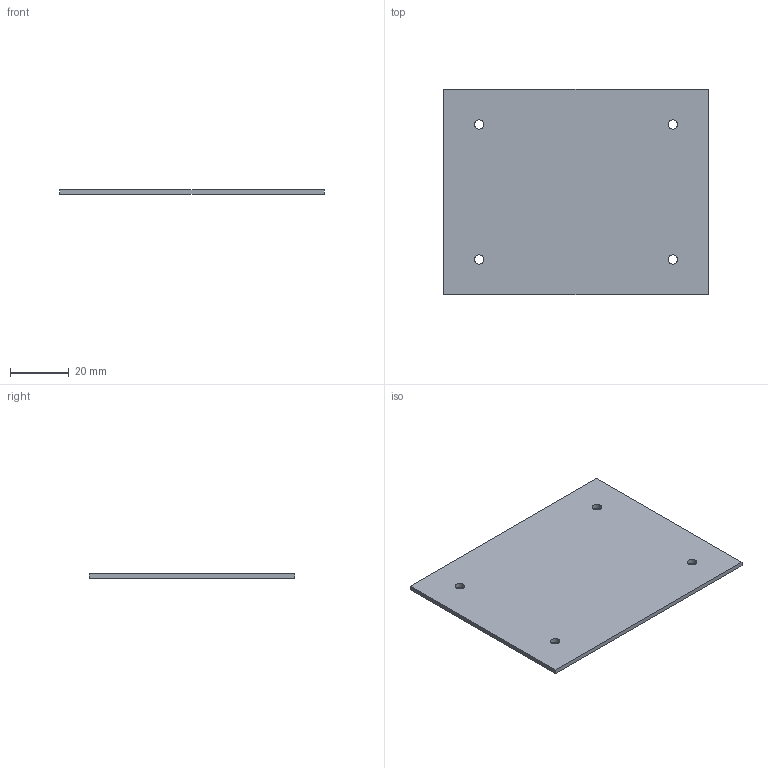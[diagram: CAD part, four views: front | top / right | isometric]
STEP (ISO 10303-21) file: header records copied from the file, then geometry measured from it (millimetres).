
FILE_DESCRIPTION(('KiCad electronic assembly'),'2;1');
FILE_NAME('board.step','2026-08-09T15:51:00',('Pcbnew'),('Kicad'), 'Open CASCADE STEP processor 7.9','KiCad to STEP converter','Unknown' );
FILE_SCHEMA(('AUTOMOTIVE_DESIGN { 1 0 10303 214 1 1 1 1 }'));
Length unit declared in the file: millimetre
Products named in the file (2): board 1; edge_io_rings_PCB
Assembly tree (1 placements, depth 2):
  board 1
    edge_io_rings_PCB
Bounding box: 90 x 70 x 1.51 mm (x, y, z)
Volume: 9464.4 mm3; surface area: 13079.6 mm2
Topology: 1 solids, 1 shells, 10 faces, 24 edges, 16 vertices
Faces by surface type: plane 6, cylinder 4
Full cylindrical faces by diameter (mm): 3.2 x4
Entity records: 349 total; most frequent: DIRECTION 56, CARTESIAN_POINT 52, ORIENTED_EDGE 48, EDGE_CURVE 24, AXIS2_PLACEMENT_3D 20, FACE_BOUND 18, EDGE_LOOP 18, VERTEX_POINT 16
